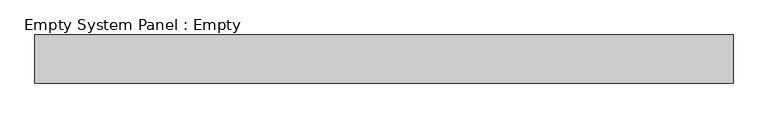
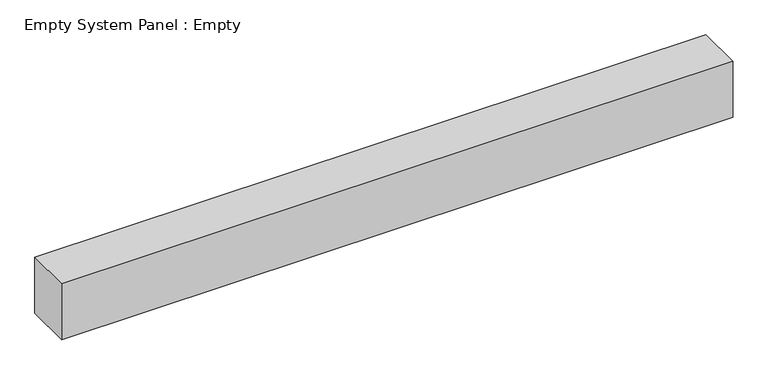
"""IFC4 building model written with IfcOpenShell, lengths in millimetres: plate geometry, Empty System Panel : Empty."""

from ifc_helpers import new_model, si_unit, origin, origin_with_axes, place, context, project, spatial, polyline, outline, extrude, source, transform, mapped, element, save


def empty_system_panel_empty_1618a703(model_context):
    return source(origin(), model_context, "Body", "SweptSolid", [
        extrude(outline(polyline([(725.0, -50.0), (-725.0, -50.0), (-725.0, 50.0), (725.0, 50.0), (725.0, -50.0)])), origin_with_axes(), (0.0, 0.0, 1.0), 127.5),
    ])


if __name__ == "__main__":
    model = new_model("IFC4")
    model_context = context("Model", 3, world=origin())
    ifc_project = project(units=[si_unit("LENGTHUNIT", "METRE", prefix="MILLI")], contexts=[model_context])
    site = spatial("IfcSite", under=ifc_project)
    building = spatial("IfcBuilding", under=site)
    placement = place(None, origin())
    empty_system_panel_empty_shape = empty_system_panel_empty_1618a703(model_context)
    element("IfcPlate", 1, ObjectType="Empty System Panel : Empty", at=placement, inside=building, context=model_context, shape_type="MappedRepresentation", body=[
        mapped(empty_system_panel_empty_shape, transform((0.0, 0.0, 0.0), x_axis=(1.0, 0.0, 0.0), y_axis=(0.0, 1.0, 0.0), z_axis=(0.0, 0.0, 1.0))),
    ])
    save(model, "model.ifc")
